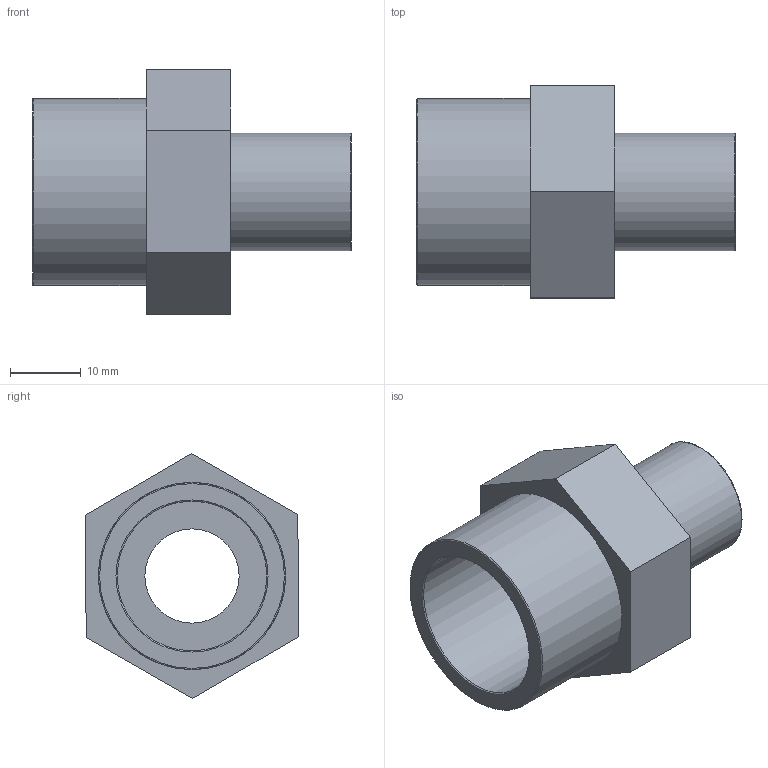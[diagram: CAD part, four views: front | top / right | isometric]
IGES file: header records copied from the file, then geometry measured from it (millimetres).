
Global section: file name: 051601007003.ipt; native system: Autodesk Inventor 2015; preprocessor: unknown; author: KIM; date: 20171207.165251; units: millimetre
Bounding box: 45 x 30.06 x 34.64 mm (x, y, z)
Volume: 10352.2 mm3; surface area: 7217.4 mm2
Topology: 1 solids, 1 shells, 19 faces, 50 edges, 36 vertices
Faces by surface type: plane 11, revolution 6, cylinder 2
Full cylindrical faces by diameter (mm): 16.662 x1, 26.441 x1
